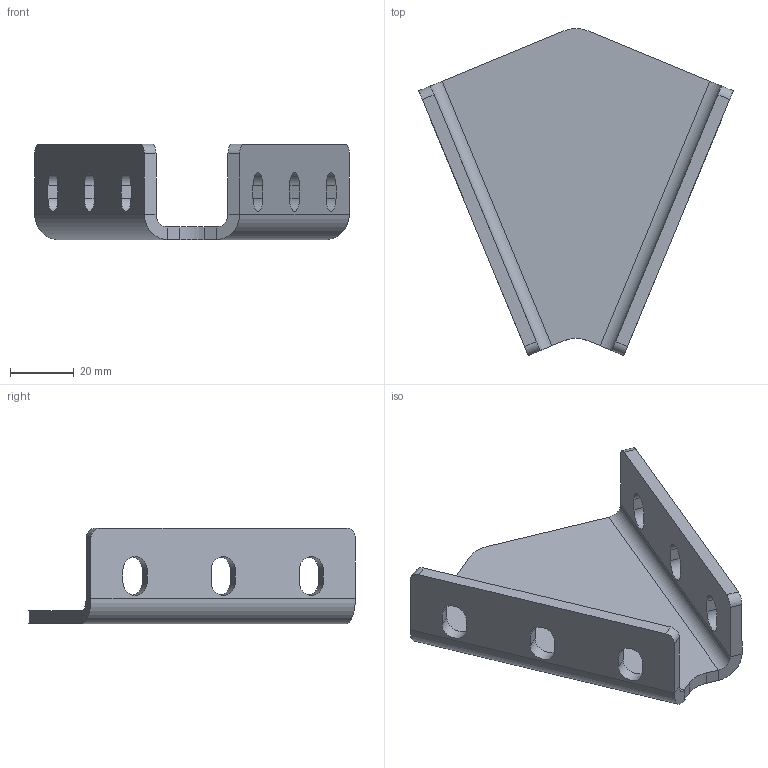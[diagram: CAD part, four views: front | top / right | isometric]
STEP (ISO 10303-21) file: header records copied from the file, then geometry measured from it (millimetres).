
FILE_DESCRIPTION (( 'STEP AP214' ), '1' );
FILE_NAME ('309045.STEP', '2019-11-01T12:35:27', ( '' ), ( '' ), 'SwSTEP 2.0', 'SolidWorks 2014', '' );
FILE_SCHEMA (( 'AUTOMOTIVE_DESIGN' ));
Length unit declared in the file: millimetre
Products named in the file (2): 309045
Bounding box: 98.88 x 102.77 x 30 mm (x, y, z)
Volume: 39890.6 mm3; surface area: 22384.3 mm2
Topology: 1 solids, 1 shells, 54 faces, 140 edges, 88 vertices
Faces by surface type: plane 32, cylinder 22
Entity records: 1713 total; most frequent: DIRECTION 296, CARTESIAN_POINT 284, ORIENTED_EDGE 280, EDGE_CURVE 140, AXIS2_PLACEMENT_3D 100, VECTOR 96, LINE 96, VERTEX_POINT 88
